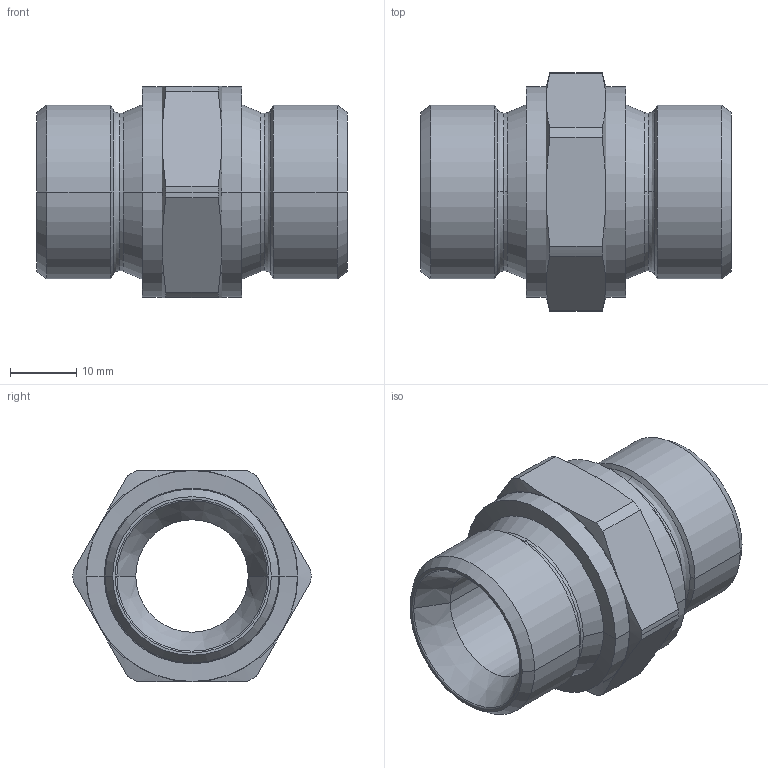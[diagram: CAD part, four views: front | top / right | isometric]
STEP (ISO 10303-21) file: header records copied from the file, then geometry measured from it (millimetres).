
FILE_DESCRIPTION((''),'2;1');
FILE_NAME('300518.stp','2006-09-11T08:12:20',(''),(''),'AutoCAD STEP 2000i','AutoCAD 2000i',', , ');
FILE_SCHEMA(('CONFIG_CONTROL_DESIGN'));
Length unit declared in the file: millimetre
Products named in the file (2): 300518.0; CHIAVE SMUSSATA#0
Assembly tree (1 placements, depth 2):
  300518.0
    CHIAVE SMUSSATA#0
Bounding box: 47 x 36 x 32 mm (x, y, z)
Volume: 17825.1 mm3; surface area: 7796.6 mm2
Topology: 1 solids, 1 shells, 72 faces, 170 edges, 102 vertices
Faces by surface type: cone 32, cylinder 18, plane 10, bspline 8, torus 4
Entity records: 2493 total; most frequent: CARTESIAN_POINT 746, DIRECTION 380, ORIENTED_EDGE 340, EDGE_CURVE 170, AXIS2_PLACEMENT_3D 168, VERTEX_POINT 102, CIRCLE 102, EDGE_LOOP 76
